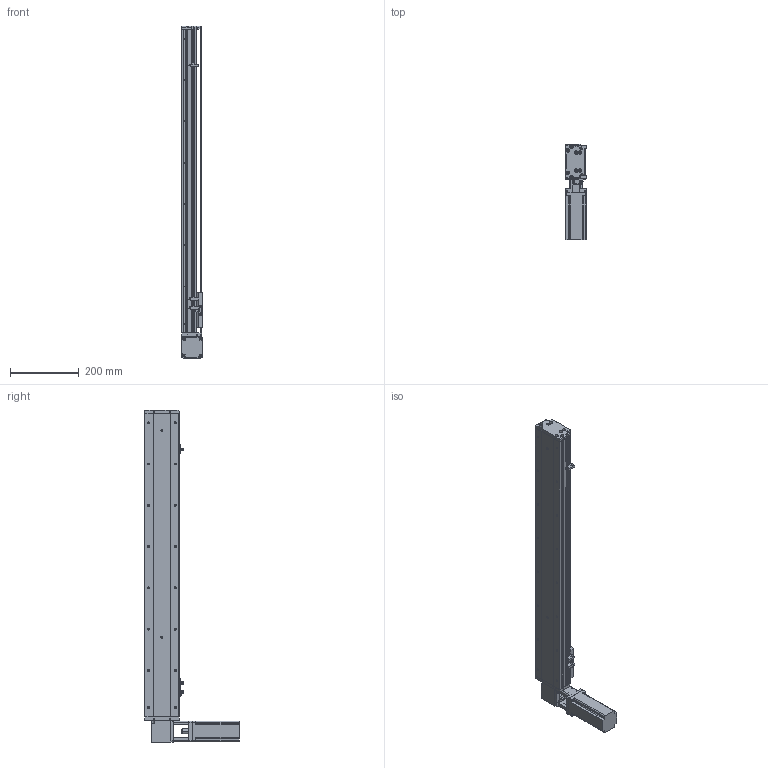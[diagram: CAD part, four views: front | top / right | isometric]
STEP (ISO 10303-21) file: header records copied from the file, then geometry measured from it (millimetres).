
FILE_DESCRIPTION (( 'STEP AP214' ), '1' );
FILE_NAME ('KSD100B-S700-MLT-CM.STEP', '2019-10-26T05:50:18', ( '微软用户' ), ( '微软中国' ), 'SwSTEP 2.0', 'SolidWorks 2014', '' );
FILE_SCHEMA (( 'AUTOMOTIVE_DESIGN' ));
Length unit declared in the file: millimetre
Products named in the file (12): 100遵鎮湛假蚾啣1 ; 100宽防尘板700行程-同步带; U倰嫖萇EEㄜSX672; 覜茼え100遵圉猾敕; 台达ECMA－C20604AS伺服电机; 100宽马达安装板同步带右; 100宽同步带安装板半封闭; 100宽马达安装板同步带; 100遵傷啣肮祭湍; 100宽底板半封闭同步带700行程; KSD100B-S700-MLT-CM; 100宽安装板同步带带电机座400W,86
Assembly tree (13 placements, depth 2):
  KSD100B-S700-MLT-CM
    100宽底板半封闭同步带700行程
    100遵傷啣肮祭湍
    100宽马达安装板同步带
    100宽同步带安装板半封闭
    100宽马达安装板同步带右
    台达ECMA－C20604AS伺服电机
    覜茼え100遵圉猾敕
    U倰嫖萇EEㄜSX672  x3
    100宽防尘板700行程-同步带
    100遵鎮湛假蚾啣1 
    100宽安装板同步带带电机座400W,86
Bounding box: 61 x 275 x 965 mm (x, y, z)
Volume: 2326722.3 mm3; surface area: 736915.5 mm2
Topology: 14 solids, 14 shells, 1380 faces, 3865 edges, 2467 vertices
Faces by surface type: cylinder 694, plane 567, cone 119
Entity records: 47685 total; most frequent: CARTESIAN_POINT 9276, DIRECTION 6697, ORIENTED_EDGE 6398, EDGE_CURVE 3199, AXIS2_PLACEMENT_3D 2458, VERTEX_POINT 2091, LINE 1781, VECTOR 1781
